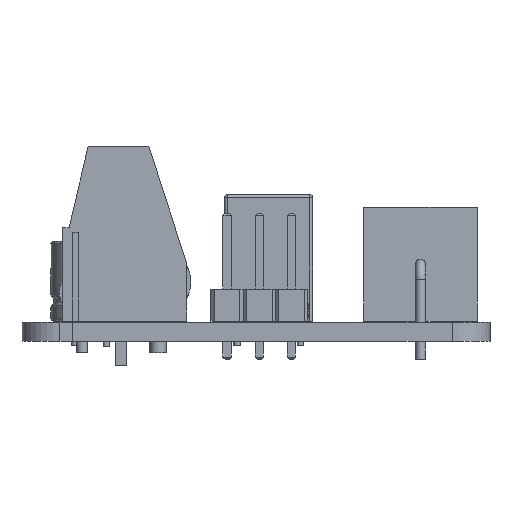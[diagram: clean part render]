
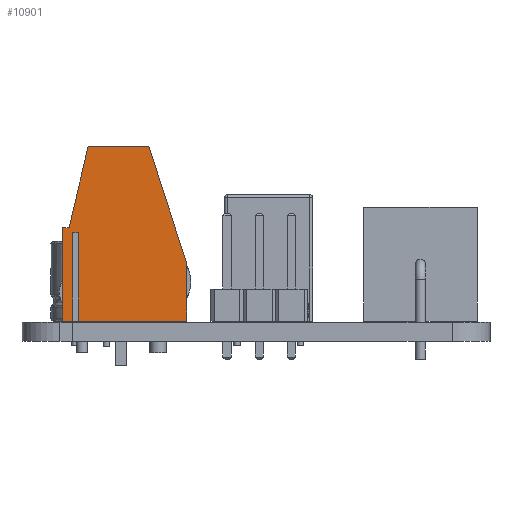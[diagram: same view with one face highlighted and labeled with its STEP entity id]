
A CAD part, left-side view. The second image highlights one B-rep face of the part: STEP entity #10901.
In plain terms, the highlighted planar face has unit normal (-1, 0, 0) as drawn and (1, 0, 0) by its records, which use the part's own axes.
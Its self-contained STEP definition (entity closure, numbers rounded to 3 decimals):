
#10550 = VERTEX_POINT('',#10551);
#10551 = CARTESIAN_POINT('',(7.62,-4.6,0.));
#10557 = EDGE_CURVE('',#10550,#10558,#10560,.T.);
#10558 = VERTEX_POINT('',#10559);
#10559 = CARTESIAN_POINT('',(7.62,-3.83,0.));
#10560 = LINE('',#10561,#10562);
#10561 = CARTESIAN_POINT('',(7.62,-4.6,0.));
#10562 = VECTOR('',#10563,1.);
#10563 = DIRECTION('',(0.,1.,0.));
#10582 = VERTEX_POINT('',#10583);
#10583 = CARTESIAN_POINT('',(7.62,-3.37,0.));
#10589 = EDGE_CURVE('',#10582,#10590,#10592,.T.);
#10590 = VERTEX_POINT('',#10591);
#10591 = CARTESIAN_POINT('',(7.62,5.2,0.));
#10592 = LINE('',#10593,#10594);
#10593 = CARTESIAN_POINT('',(7.62,-4.6,0.));
#10594 = VECTOR('',#10595,1.);
#10595 = DIRECTION('',(0.,1.,0.));
#10791 = VERTEX_POINT('',#10792);
#10792 = CARTESIAN_POINT('',(7.62,-4.6,7.4));
#10798 = EDGE_CURVE('',#10791,#10550,#10799,.T.);
#10799 = LINE('',#10800,#10801);
#10800 = CARTESIAN_POINT('',(7.62,-4.6,13.8));
#10801 = VECTOR('',#10802,1.);
#10802 = DIRECTION('',(0.,0.,-1.));
#10901 = ADVANCED_FACE('',(#10902),#10967,.T.);
#10902 = FACE_BOUND('',#10903,.T.);
#10903 = EDGE_LOOP('',(#10904,#10914,#10920,#10921,#10922,#10930,#10938,
    #10944,#10945,#10953,#10961));
#10904 = ORIENTED_EDGE('',*,*,#10905,.T.);
#10905 = EDGE_CURVE('',#10906,#10908,#10910,.T.);
#10906 = VERTEX_POINT('',#10907);
#10907 = CARTESIAN_POINT('',(7.62,-2.6,13.8));
#10908 = VERTEX_POINT('',#10909);
#10909 = CARTESIAN_POINT('',(7.62,-4.1,7.4));
#10910 = LINE('',#10911,#10912);
#10911 = CARTESIAN_POINT('',(7.62,-2.6,13.8));
#10912 = VECTOR('',#10913,1.);
#10913 = DIRECTION('',(0.,-0.228,-0.974));
#10914 = ORIENTED_EDGE('',*,*,#10915,.T.);
#10915 = EDGE_CURVE('',#10908,#10791,#10916,.T.);
#10916 = LINE('',#10917,#10918);
#10917 = CARTESIAN_POINT('',(7.62,-4.1,7.4));
#10918 = VECTOR('',#10919,1.);
#10919 = DIRECTION('',(0.,-1.,0.));
#10920 = ORIENTED_EDGE('',*,*,#10798,.T.);
#10921 = ORIENTED_EDGE('',*,*,#10557,.T.);
#10922 = ORIENTED_EDGE('',*,*,#10923,.T.);
#10923 = EDGE_CURVE('',#10558,#10924,#10926,.T.);
#10924 = VERTEX_POINT('',#10925);
#10925 = CARTESIAN_POINT('',(7.62,-3.83,7.));
#10926 = LINE('',#10927,#10928);
#10927 = CARTESIAN_POINT('',(7.62,-3.83,0.));
#10928 = VECTOR('',#10929,1.);
#10929 = DIRECTION('',(0.,0.,1.));
#10930 = ORIENTED_EDGE('',*,*,#10931,.T.);
#10931 = EDGE_CURVE('',#10924,#10932,#10934,.T.);
#10932 = VERTEX_POINT('',#10933);
#10933 = CARTESIAN_POINT('',(7.62,-3.37,7.));
#10934 = LINE('',#10935,#10936);
#10935 = CARTESIAN_POINT('',(7.62,-3.83,7.));
#10936 = VECTOR('',#10937,1.);
#10937 = DIRECTION('',(0.,1.,0.));
#10938 = ORIENTED_EDGE('',*,*,#10939,.F.);
#10939 = EDGE_CURVE('',#10582,#10932,#10940,.T.);
#10940 = LINE('',#10941,#10942);
#10941 = CARTESIAN_POINT('',(7.62,-3.37,0.));
#10942 = VECTOR('',#10943,1.);
#10943 = DIRECTION('',(0.,0.,1.));
#10944 = ORIENTED_EDGE('',*,*,#10589,.T.);
#10945 = ORIENTED_EDGE('',*,*,#10946,.T.);
#10946 = EDGE_CURVE('',#10590,#10947,#10949,.T.);
#10947 = VERTEX_POINT('',#10948);
#10948 = CARTESIAN_POINT('',(7.62,5.2,4.57));
#10949 = LINE('',#10950,#10951);
#10950 = CARTESIAN_POINT('',(7.62,5.2,0.));
#10951 = VECTOR('',#10952,1.);
#10952 = DIRECTION('',(0.,0.,1.));
#10953 = ORIENTED_EDGE('',*,*,#10954,.F.);
#10954 = EDGE_CURVE('',#10955,#10947,#10957,.T.);
#10955 = VERTEX_POINT('',#10956);
#10956 = CARTESIAN_POINT('',(7.62,2.2,13.8));
#10957 = LINE('',#10958,#10959);
#10958 = CARTESIAN_POINT('',(7.62,2.2,13.8));
#10959 = VECTOR('',#10960,1.);
#10960 = DIRECTION('',(0.,0.309,-0.951));
#10961 = ORIENTED_EDGE('',*,*,#10962,.T.);
#10962 = EDGE_CURVE('',#10955,#10906,#10963,.T.);
#10963 = LINE('',#10964,#10965);
#10964 = CARTESIAN_POINT('',(7.62,5.2,13.8));
#10965 = VECTOR('',#10966,1.);
#10966 = DIRECTION('',(0.,-1.,0.));
#10967 = PLANE('',#10968);
#10968 = AXIS2_PLACEMENT_3D('',#10969,#10970,#10971);
#10969 = CARTESIAN_POINT('',(7.62,0.3,6.9));
#10970 = DIRECTION('',(1.,0.,0.));
#10971 = DIRECTION('',(-0.,0.,1.));
